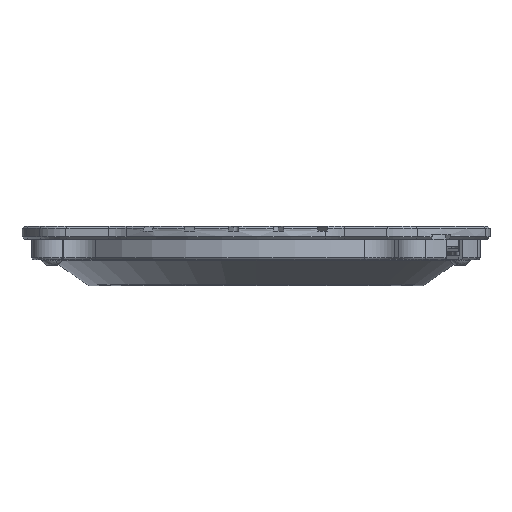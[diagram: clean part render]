
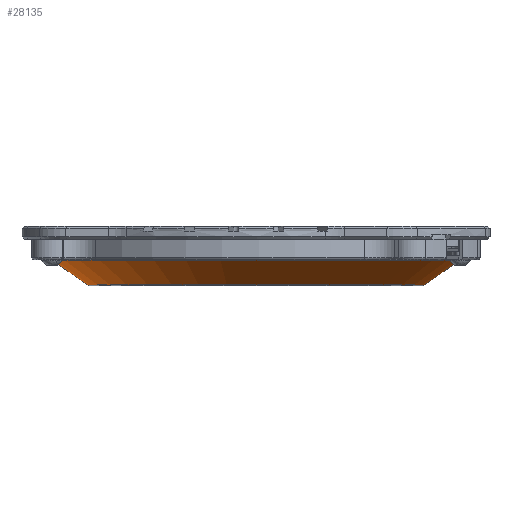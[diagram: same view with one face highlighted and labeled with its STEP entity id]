
A CAD part, front view. The second image highlights one B-rep face of the part: STEP entity #28135.
In plain terms, the highlighted conical face has half-angle 55 degrees and reference radius 79 mm.
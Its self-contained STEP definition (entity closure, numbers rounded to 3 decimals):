
#11984 = CIRCLE ( 'NONE', #12110, 78.613 ) ;
#12102 = CARTESIAN_POINT ( 'NONE',  ( -100.741, -11.822, -10.721 ) ) ;
#12103 = CARTESIAN_POINT ( 'NONE',  ( 56.484, -11.822, -10.721 ) ) ;
#12105 = DIRECTION ( 'NONE',  ( -1., 0., 0. ) ) ;
#12106 = DIRECTION ( 'NONE',  ( 0., 0., -1. ) ) ;
#12108 = CARTESIAN_POINT ( 'NONE',  ( -22.128, -11.822, -10.721 ) ) ;
#12110 = AXIS2_PLACEMENT_3D ( 'NONE', #12108, #12106, #12105 ) ;
#15670 = CARTESIAN_POINT ( 'NONE',  ( -87.234, -11.822, -20.179 ) ) ;
#15673 = CARTESIAN_POINT ( 'NONE',  ( 42.978, -11.822, -20.179 ) ) ;
#15689 = FACE_OUTER_BOUND ( 'NONE', #28136, .T. ) ;
#15738 = LINE ( 'NONE', #15744, #15851 ) ;
#15739 = DIRECTION ( 'NONE',  ( 1., 0., 0. ) ) ;
#15740 = DIRECTION ( 'NONE',  ( 0., 0., 1. ) ) ;
#15742 = CARTESIAN_POINT ( 'NONE',  ( -22.128, -11.822, -20.179 ) ) ;
#15743 = AXIS2_PLACEMENT_3D ( 'NONE', #15742, #15740, #15739 ) ;
#15744 = CARTESIAN_POINT ( 'NONE',  ( 56.872, -11.822, -10.45 ) ) ;
#15747 = DIRECTION ( 'NONE',  ( -1., 0., 0. ) ) ;
#15748 = DIRECTION ( 'NONE',  ( 0., 0., 1. ) ) ;
#15749 = CARTESIAN_POINT ( 'NONE',  ( -22.128, -11.822, -10.45 ) ) ;
#15750 = AXIS2_PLACEMENT_3D ( 'NONE', #15749, #15748, #15747 ) ;
#15751 = CIRCLE ( 'NONE', #15743, 65.106 ) ;
#15755 = CONICAL_SURFACE ( 'NONE', #15750, 79., 0.96 ) ;
#15850 = DIRECTION ( 'NONE',  ( 0.819, 0., 0.574 ) ) ;
#15851 = VECTOR ( 'NONE', #15850, 1000. ) ;
#16048 = DIRECTION ( 'NONE',  ( -0.819, 0., 0.574 ) ) ;
#16049 = VECTOR ( 'NONE', #16048, 1000. ) ;
#16050 = CARTESIAN_POINT ( 'NONE',  ( -101.128, -11.822, -10.45 ) ) ;
#16051 = LINE ( 'NONE', #16050, #16049 ) ;
#23481 = EDGE_CURVE ( 'NONE', #23482, #23483, #11984, .T. ) ;
#23482 = VERTEX_POINT ( 'NONE', #12103 ) ;
#23483 = VERTEX_POINT ( 'NONE', #12102 ) ;
#28110 = VERTEX_POINT ( 'NONE', #15673 ) ;
#28111 = VERTEX_POINT ( 'NONE', #15670 ) ;
#28135 = ADVANCED_FACE ( 'NONE', ( #15689 ), #15755, .T. ) ;
#28136 = EDGE_LOOP ( 'NONE', ( #28137, #28139, #28190, #28192 ) ) ;
#28137 = ORIENTED_EDGE ( 'NONE', *, *, #28138, .T. ) ;
#28138 = EDGE_CURVE ( 'NONE', #28111, #28110, #15751, .T. ) ;
#28139 = ORIENTED_EDGE ( 'NONE', *, *, #28140, .T. ) ;
#28140 = EDGE_CURVE ( 'NONE', #28110, #23482, #15738, .T. ) ;
#28190 = ORIENTED_EDGE ( 'NONE', *, *, #23481, .T. ) ;
#28192 = ORIENTED_EDGE ( 'NONE', *, *, #28193, .F. ) ;
#28193 = EDGE_CURVE ( 'NONE', #28111, #23483, #16051, .T. ) ;
